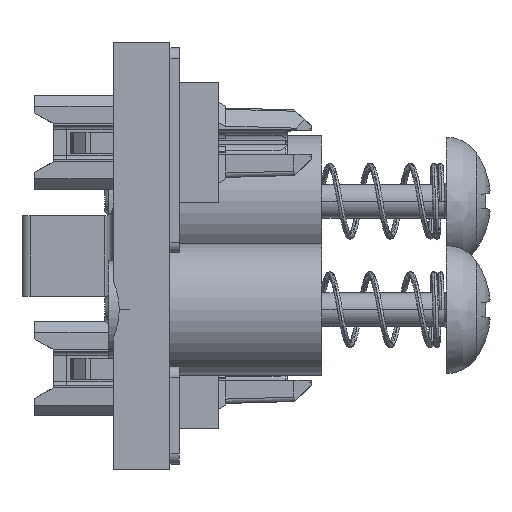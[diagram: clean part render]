
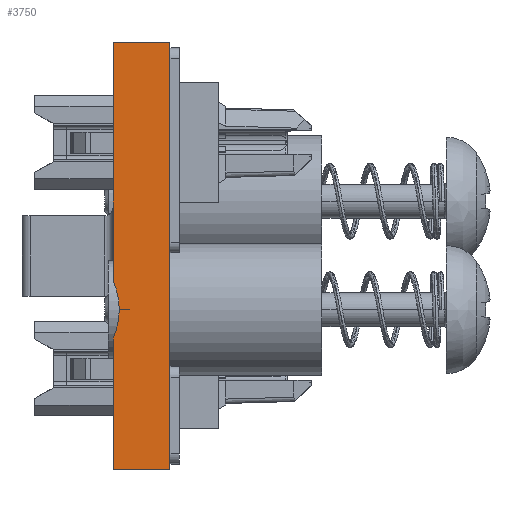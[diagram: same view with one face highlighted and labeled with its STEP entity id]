
A CAD part, front view. The second image highlights one B-rep face of the part: STEP entity #3750.
In plain terms, the highlighted planar face has unit normal (0, -1, 0).
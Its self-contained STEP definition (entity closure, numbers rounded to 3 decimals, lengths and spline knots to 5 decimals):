
#38=DIRECTION('',(0.,0.,-1.));
#39=VECTOR('',#38,0.493);
#40=CARTESIAN_POINT('',(0.125,-0.565,0.633));
#41=LINE('',#40,#39);
#54=DIRECTION('',(0.,0.,-1.));
#55=VECTOR('',#54,0.295);
#56=CARTESIAN_POINT('',(0.125,-0.565,0.14));
#57=LINE('',#56,#55);
#150=CARTESIAN_POINT('',(0.02,-0.565,0.0858));
#151=CARTESIAN_POINT('',(0.02067,-0.565,
0.08744));
#152=CARTESIAN_POINT('',(0.02195,-0.565,
0.09072));
#153=CARTESIAN_POINT('',(0.02373,-0.565,
0.09568));
#154=CARTESIAN_POINT('',(0.02534,-0.565,
0.10064));
#155=CARTESIAN_POINT('',(0.02678,-0.565,
0.10561));
#156=CARTESIAN_POINT('',(0.02803,-0.565,
0.11058));
#157=CARTESIAN_POINT('',(0.0291,-0.565,
0.11554));
#158=CARTESIAN_POINT('',(0.02998,-0.565,
0.1205));
#159=CARTESIAN_POINT('',(0.03066,-0.565,
0.12542));
#160=CARTESIAN_POINT('',(0.03115,-0.565,
0.13033));
#161=CARTESIAN_POINT('',(0.03144,-0.565,
0.1352));
#162=CARTESIAN_POINT('',(0.0315,-0.565,0.13841));
#163=CARTESIAN_POINT('',(0.0315,-0.565,0.14001));
#165=CARTESIAN_POINT('',(0.0315,-0.565,0.14001));
#166=CARTESIAN_POINT('',(0.0315,-0.565,0.14161));
#167=CARTESIAN_POINT('',(0.03144,-0.565,
0.14483));
#168=CARTESIAN_POINT('',(0.03115,-0.565,
0.14972));
#169=CARTESIAN_POINT('',(0.03066,-0.565,
0.15464));
#170=CARTESIAN_POINT('',(0.02997,-0.565,
0.15958));
#171=CARTESIAN_POINT('',(0.02909,-0.565,
0.16454));
#172=CARTESIAN_POINT('',(0.02801,-0.565,
0.16951));
#173=CARTESIAN_POINT('',(0.02675,-0.565,
0.17448));
#174=CARTESIAN_POINT('',(0.02531,-0.565,
0.17944));
#175=CARTESIAN_POINT('',(0.0237,-0.565,
0.18439));
#176=CARTESIAN_POINT('',(0.02194,-0.565,
0.18932));
#177=CARTESIAN_POINT('',(0.02066,-0.565,
0.19257));
#178=CARTESIAN_POINT('',(0.02,-0.565,0.1942));
#180=DIRECTION('',(-1.,0.,0.));
#181=VECTOR('',#180,0.105);
#182=CARTESIAN_POINT('',(0.125,-0.565,0.633));
#183=LINE('',#182,#181);
#184=DIRECTION('',(-1.,0.,0.));
#185=VECTOR('',#184,0.105);
#186=CARTESIAN_POINT('',(0.125,-0.565,-0.155));
#187=LINE('',#186,#185);
#196=DIRECTION('',(0.,0.,-1.));
#197=VECTOR('',#196,0.4388);
#198=CARTESIAN_POINT('',(0.02,-0.565,0.633));
#199=LINE('',#198,#197);
#205=DIRECTION('',(0.,0.,-1.));
#206=VECTOR('',#205,0.2408);
#207=CARTESIAN_POINT('',(0.02,-0.565,0.0858));
#208=LINE('',#207,#206);
#3167=CARTESIAN_POINT('',(0.125,-0.565,-0.155));
#3168=CARTESIAN_POINT('',(0.02,-0.565,-0.155));
#3169=VERTEX_POINT('',#3167);
#3170=VERTEX_POINT('',#3168);
#3179=CARTESIAN_POINT('',(0.125,-0.565,0.633));
#3180=CARTESIAN_POINT('',(0.02,-0.565,0.633));
#3181=VERTEX_POINT('',#3179);
#3182=VERTEX_POINT('',#3180);
#3207=VERTEX_POINT('',#165);
#3208=VERTEX_POINT('',#178);
#3215=VERTEX_POINT('',#150);
#3443=CARTESIAN_POINT('',(0.125,-0.565,0.14));
#3444=VERTEX_POINT('',#3443);
#3729=CARTESIAN_POINT('',(0.125,-0.565,0.633));
#3730=DIRECTION('',(0.,-1.,0.));
#3731=DIRECTION('',(0.,0.,-1.));
#3732=AXIS2_PLACEMENT_3D('',#3729,#3730,#3731);
#3733=PLANE('',#3732);
#3734=ORIENTED_EDGE('',*,*,#3663,.T.);
#3735=ORIENTED_EDGE('',*,*,#3671,.T.);
#3737=ORIENTED_EDGE('',*,*,#3736,.T.);
#3739=ORIENTED_EDGE('',*,*,#3738,.F.);
#3741=ORIENTED_EDGE('',*,*,#3740,.T.);
#3743=ORIENTED_EDGE('',*,*,#3742,.T.);
#3745=ORIENTED_EDGE('',*,*,#3744,.F.);
#3747=ORIENTED_EDGE('',*,*,#3746,.F.);
#3748=EDGE_LOOP('',(#3734,#3735,#3737,#3739,#3741,#3743,#3745,#3747));
#3749=FACE_OUTER_BOUND('',#3748,.F.);
#3750=ADVANCED_FACE('',(#3749),#3733,.T.);
#164=B_SPLINE_CURVE_WITH_KNOTS('',3,(#150,#151,#152,#153,#154,#155,#156,#157,
#158,#159,#160,#161,#162,#163),.UNSPECIFIED.,.F.,.F.,(4,1,1,1,1,1,1,1,1,1,1,4),(
0.,0.09091,0.18182,0.27273,0.36364,
0.45455,0.54545,0.63636,0.72727,
0.81818,0.90909,1.),.UNSPECIFIED.);
#179=B_SPLINE_CURVE_WITH_KNOTS('',3,(#165,#166,#167,#168,#169,#170,#171,#172,
#173,#174,#175,#176,#177,#178),.UNSPECIFIED.,.F.,.F.,(4,1,1,1,1,1,1,1,1,1,1,4),(
0.,0.09091,0.18182,0.27273,0.36364,
0.45455,0.54545,0.63636,0.72727,
0.81818,0.90909,1.),.UNSPECIFIED.);
#3663=EDGE_CURVE('',#3181,#3444,#41,.T.);
#3671=EDGE_CURVE('',#3444,#3169,#57,.T.);
#3736=EDGE_CURVE('',#3169,#3170,#187,.T.);
#3738=EDGE_CURVE('',#3215,#3170,#208,.T.);
#3740=EDGE_CURVE('',#3215,#3207,#164,.T.);
#3742=EDGE_CURVE('',#3207,#3208,#179,.T.);
#3744=EDGE_CURVE('',#3182,#3208,#199,.T.);
#3746=EDGE_CURVE('',#3181,#3182,#183,.T.);
